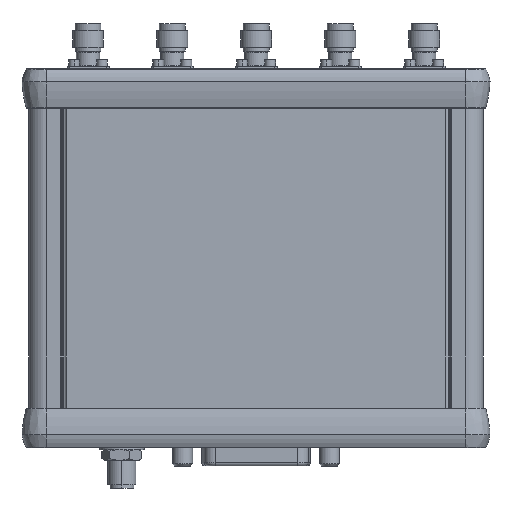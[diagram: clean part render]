
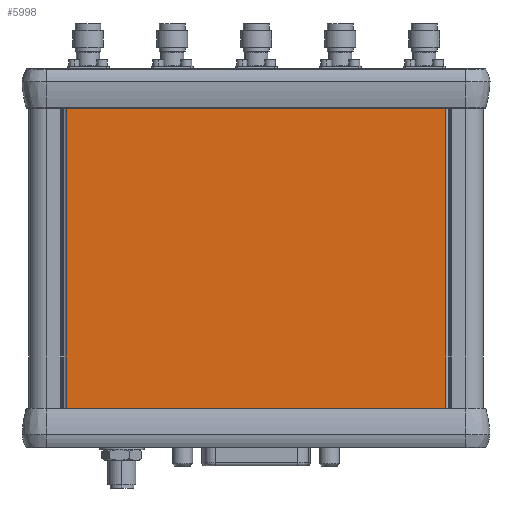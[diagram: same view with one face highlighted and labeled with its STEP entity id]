
A CAD part, front view. The second image highlights one B-rep face of the part: STEP entity #5998.
In plain terms, the highlighted planar face has unit normal (0, -1, 0).
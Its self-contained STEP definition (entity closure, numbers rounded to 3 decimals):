
#263 = FACE_OUTER_BOUND ( 'NONE', #20934, .T. ) ;
#985 = EDGE_CURVE ( 'NONE', #4693, #1193, #8936, .T. ) ;
#1193 = VERTEX_POINT ( 'NONE', #6784 ) ;
#2345 = CARTESIAN_POINT ( 'NONE',  ( 94.515, 0., -42.9 ) ) ;
#2426 = VECTOR ( 'NONE', #21154, 1000. ) ;
#2621 = DIRECTION ( 'NONE',  ( 0., -1., 0. ) ) ;
#2715 = VECTOR ( 'NONE', #25352, 1000. ) ;
#3847 = VECTOR ( 'NONE', #4497, 1000. ) ;
#4497 = DIRECTION ( 'NONE',  ( -1., 0., 0. ) ) ;
#4693 = VERTEX_POINT ( 'NONE', #26566 ) ;
#4824 = PLANE ( 'NONE',  #8752 ) ;
#5673 = CARTESIAN_POINT ( 'NONE',  ( 8.485, 0., -42.9 ) ) ;
#5998 = ADVANCED_FACE ( 'NONE', ( #263 ), #4824, .T. ) ;
#6784 = CARTESIAN_POINT ( 'NONE',  ( 8.485, 0., -76.9 ) ) ;
#8752 = AXIS2_PLACEMENT_3D ( 'NONE', #2345, #2621, #11592 ) ;
#8771 = LINE ( 'NONE', #17759, #24181 ) ;
#8936 = LINE ( 'NONE', #18189, #3847 ) ;
#10683 = CARTESIAN_POINT ( 'NONE',  ( 8.485, 0., -8.9 ) ) ;
#10743 = CARTESIAN_POINT ( 'NONE',  ( 94.515, 0., -8.9 ) ) ;
#11474 = ORIENTED_EDGE ( 'NONE', *, *, #17981, .F. ) ;
#11592 = DIRECTION ( 'NONE',  ( 1., 0., 0. ) ) ;
#11905 = ORIENTED_EDGE ( 'NONE', *, *, #21233, .F. ) ;
#16255 = VERTEX_POINT ( 'NONE', #10743 ) ;
#16703 = LINE ( 'NONE', #5673, #2715 ) ;
#17759 = CARTESIAN_POINT ( 'NONE',  ( 94.515, 0., -42.9 ) ) ;
#17981 = EDGE_CURVE ( 'NONE', #16255, #4693, #8771, .T. ) ;
#18189 = CARTESIAN_POINT ( 'NONE',  ( 94.515, 0., -76.9 ) ) ;
#19096 = CARTESIAN_POINT ( 'NONE',  ( 94.515, 0., -8.9 ) ) ;
#20526 = DIRECTION ( 'NONE',  ( 0., 0., -1. ) ) ;
#20934 = EDGE_LOOP ( 'NONE', ( #11905, #27573, #23072, #11474 ) ) ;
#21154 = DIRECTION ( 'NONE',  ( 1., 0., 0. ) ) ;
#21233 = EDGE_CURVE ( 'NONE', #25806, #16255, #23329, .T. ) ;
#21669 = EDGE_CURVE ( 'NONE', #25806, #1193, #16703, .T. ) ;
#23072 = ORIENTED_EDGE ( 'NONE', *, *, #985, .F. ) ;
#23329 = LINE ( 'NONE', #19096, #2426 ) ;
#24181 = VECTOR ( 'NONE', #20526, 1000. ) ;
#25352 = DIRECTION ( 'NONE',  ( 0., 0., -1. ) ) ;
#25806 = VERTEX_POINT ( 'NONE', #10683 ) ;
#26566 = CARTESIAN_POINT ( 'NONE',  ( 94.515, 0., -76.9 ) ) ;
#27573 = ORIENTED_EDGE ( 'NONE', *, *, #21669, .T. ) ;
